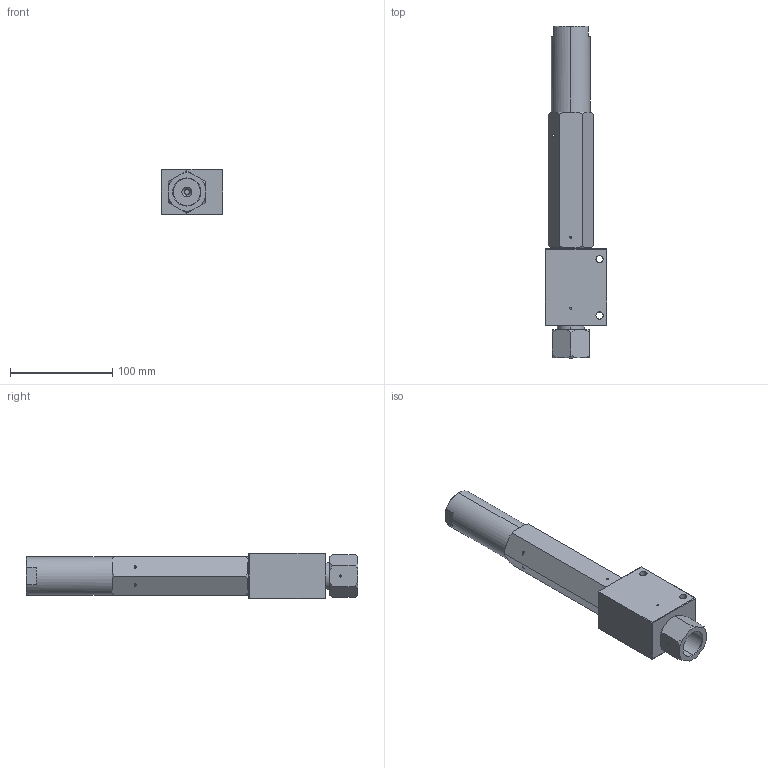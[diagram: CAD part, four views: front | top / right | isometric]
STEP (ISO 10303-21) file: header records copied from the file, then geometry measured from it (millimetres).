
FILE_DESCRIPTION (( 'STEP AP214' ), '1' );
FILE_NAME ('RV60FSS09.STEP', '2026-02-26T07:40:50', ( '' ), ( '' ), 'SwSTEP 2.0', 'SolidWorks 2023', '' );
FILE_SCHEMA (( 'AUTOMOTIVE_DESIGN' ));
Length unit declared in the file: millimetre
Products named in the file (1): RV60FSS09
Bounding box: 60 x 323.87 x 44 mm (x, y, z)
Volume: 471677.1 mm3; surface area: 58835.6 mm2
Topology: 1 solids, 1 shells, 127 faces, 296 edges, 183 vertices
Faces by surface type: plane 60, cone 39, cylinder 28
Entity records: 3800 total; most frequent: CARTESIAN_POINT 903, DIRECTION 593, ORIENTED_EDGE 592, EDGE_CURVE 296, AXIS2_PLACEMENT_3D 227, VERTEX_POINT 183, EDGE_LOOP 147, VECTOR 139
